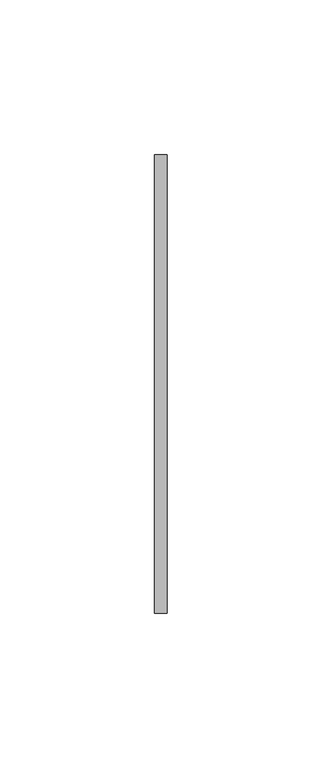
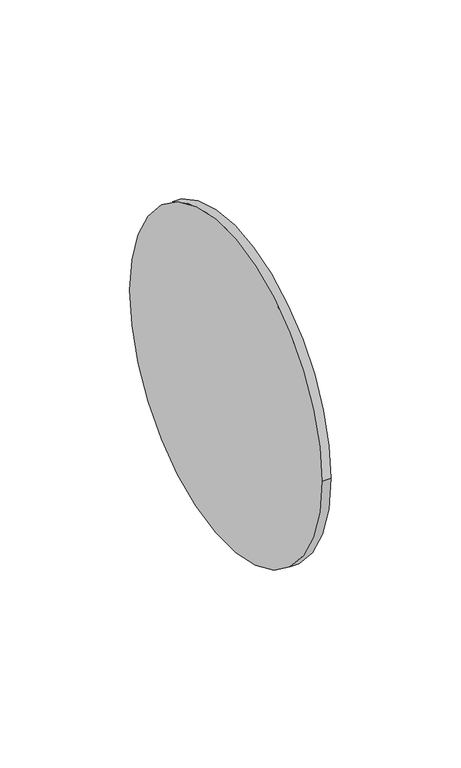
"""IFC4 building model written with IfcOpenShell, lengths in millimetres: pipe fitting geometry, PipeAccessory_GirpiHTA_CPVC_FlatGasketsForFlangeAdaptors : PipeAccessory_GirpiHTA_CPVC_FlatGasketsForFlangeAdaptors."""

from ifc_helpers import new_model, si_unit, point, frame, origin, origin_2d, place, context, project, spatial, circle_curve, trimmed, segment, composite_curve, outline, extrude, source, transform, mapped, element, save


def pipe_fitting_cafe6cda(model_context):
    return source(origin(), model_context, "Body", "SweptSolid", [
        extrude(outline(composite_curve([segment(trimmed(circle_curve(origin_2d(), 74.0), [point((-74.0, 0.0))], [point((74.0, 0.0))], False, "CARTESIAN"), True, "CONTINUOUS"), segment(trimmed(circle_curve(origin_2d(), 74.0), [point((74.0, 0.0))], [point((-74.0, 0.0))], False, "CARTESIAN"), True, "CONTINUOUS")], self_intersect=False)), frame((-2.0, 0.0, 0.0), z_axis=(1.0, 0.0, 0.0), x_axis=(0.0, 1.0, 0.0)), (0.0, 0.0, 1.0), 4.0),
    ])


if __name__ == "__main__":
    model = new_model("IFC4")
    model_context = context("Model", 3, world=origin())
    ifc_project = project(units=[si_unit("LENGTHUNIT", "METRE", prefix="MILLI")], contexts=[model_context])
    site = spatial("IfcSite", under=ifc_project)
    building = spatial("IfcBuilding", under=site)
    placement = place(None, origin())
    pipe_fitting_shape = pipe_fitting_cafe6cda(model_context)
    element("IfcPipeFitting", 1, ObjectType="PipeAccessory_GirpiHTA_CPVC_FlatGasketsForFlangeAdaptors : PipeAccessory_GirpiHTA_CPVC_FlatGasketsForFlangeAdaptors", at=placement, inside=building, context=model_context, shape_type="MappedRepresentation", body=[
        mapped(pipe_fitting_shape, transform((0.0, 0.0, 0.0), x_axis=(1.0, 0.0, 0.0), y_axis=(0.0, 1.0, 0.0), z_axis=(0.0, 0.0, 1.0))),
    ])
    save(model, "model.ifc")
